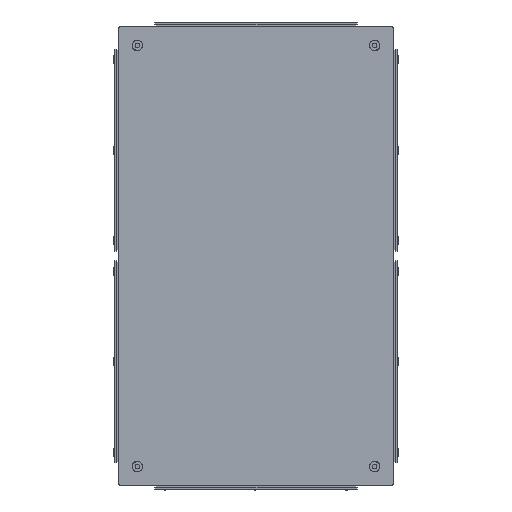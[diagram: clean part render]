
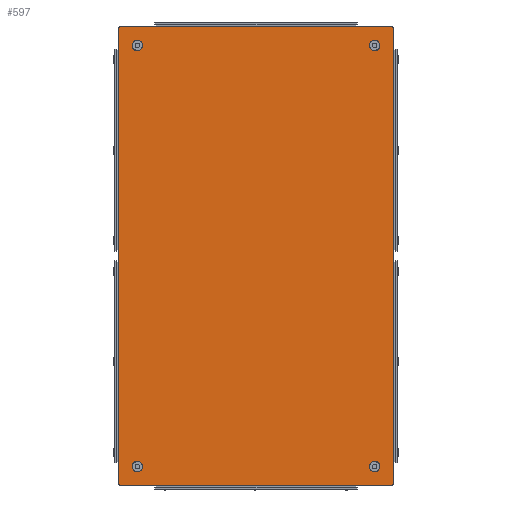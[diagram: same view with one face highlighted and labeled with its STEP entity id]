
A CAD part, front view. The second image highlights one B-rep face of the part: STEP entity #597.
In plain terms, the highlighted planar face has unit normal (0, -1, 0).
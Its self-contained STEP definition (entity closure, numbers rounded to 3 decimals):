
#597 = ADVANCED_FACE('',(#598,#618,#629,#649,#660),#782,.T.);
#598 = FACE_BOUND('',#599,.T.);
#599 = EDGE_LOOP('',(#600,#611));
#600 = ORIENTED_EDGE('',*,*,#601,.F.);
#601 = EDGE_CURVE('',#602,#604,#606,.T.);
#602 = VERTEX_POINT('',#603);
#603 = CARTESIAN_POINT('',(-129.,-1.2,-225.));
#604 = VERTEX_POINT('',#605);
#605 = CARTESIAN_POINT('',(-129.,-1.2,-233.));
#606 = CIRCLE('',#607,4.);
#607 = AXIS2_PLACEMENT_3D('',#608,#609,#610);
#608 = CARTESIAN_POINT('',(-129.,-1.2,-229.));
#609 = DIRECTION('',(0.,-1.,0.));
#610 = DIRECTION('',(0.,0.,1.));
#611 = ORIENTED_EDGE('',*,*,#612,.F.);
#612 = EDGE_CURVE('',#604,#602,#613,.T.);
#613 = CIRCLE('',#614,4.);
#614 = AXIS2_PLACEMENT_3D('',#615,#616,#617);
#615 = CARTESIAN_POINT('',(-129.,-1.2,-229.));
#616 = DIRECTION('',(0.,-1.,0.));
#617 = DIRECTION('',(0.,0.,1.));
#618 = FACE_BOUND('',#619,.T.);
#619 = EDGE_LOOP('',(#620));
#620 = ORIENTED_EDGE('',*,*,#621,.F.);
#621 = EDGE_CURVE('',#622,#622,#624,.T.);
#622 = VERTEX_POINT('',#623);
#623 = CARTESIAN_POINT('',(129.,-1.2,-233.));
#624 = CIRCLE('',#625,4.);
#625 = AXIS2_PLACEMENT_3D('',#626,#627,#628);
#626 = CARTESIAN_POINT('',(129.,-1.2,-229.));
#627 = DIRECTION('',(0.,-1.,0.));
#628 = DIRECTION('',(0.,0.,-1.));
#629 = FACE_BOUND('',#630,.T.);
#630 = EDGE_LOOP('',(#631,#642));
#631 = ORIENTED_EDGE('',*,*,#632,.F.);
#632 = EDGE_CURVE('',#633,#635,#637,.T.);
#633 = VERTEX_POINT('',#634);
#634 = CARTESIAN_POINT('',(129.,-1.2,233.));
#635 = VERTEX_POINT('',#636);
#636 = CARTESIAN_POINT('',(129.,-1.2,225.));
#637 = CIRCLE('',#638,4.);
#638 = AXIS2_PLACEMENT_3D('',#639,#640,#641);
#639 = CARTESIAN_POINT('',(129.,-1.2,229.));
#640 = DIRECTION('',(0.,-1.,0.));
#641 = DIRECTION('',(0.,0.,1.));
#642 = ORIENTED_EDGE('',*,*,#643,.F.);
#643 = EDGE_CURVE('',#635,#633,#644,.T.);
#644 = CIRCLE('',#645,4.);
#645 = AXIS2_PLACEMENT_3D('',#646,#647,#648);
#646 = CARTESIAN_POINT('',(129.,-1.2,229.));
#647 = DIRECTION('',(0.,-1.,0.));
#648 = DIRECTION('',(0.,0.,1.));
#649 = FACE_BOUND('',#650,.T.);
#650 = EDGE_LOOP('',(#651));
#651 = ORIENTED_EDGE('',*,*,#652,.F.);
#652 = EDGE_CURVE('',#653,#653,#655,.T.);
#653 = VERTEX_POINT('',#654);
#654 = CARTESIAN_POINT('',(-129.,-1.2,225.));
#655 = CIRCLE('',#656,4.);
#656 = AXIS2_PLACEMENT_3D('',#657,#658,#659);
#657 = CARTESIAN_POINT('',(-129.,-1.2,229.));
#658 = DIRECTION('',(0.,-1.,0.));
#659 = DIRECTION('',(0.,0.,-1.));
#660 = FACE_BOUND('',#661,.T.);
#661 = EDGE_LOOP('',(#662,#675,#686,#694,#705,#716,#724,#735,#746,#754,
    #765,#776));
#662 = ORIENTED_EDGE('',*,*,#663,.F.);
#663 = EDGE_CURVE('',#664,#666,#668,.T.);
#664 = VERTEX_POINT('',#665);
#665 = CARTESIAN_POINT('',(148.2,-1.2,248.2));
#666 = VERTEX_POINT('',#667);
#667 = CARTESIAN_POINT('',(150.,-1.2,248.574));
#668 = B_SPLINE_CURVE_WITH_KNOTS('',3,(#669,#670,#671,#672,#673,#674),
  .UNSPECIFIED.,.F.,.F.,(4,2,4),(0.004,0.005,
    0.006),.UNSPECIFIED.);
#669 = CARTESIAN_POINT('',(148.2,-1.2,248.2));
#670 = CARTESIAN_POINT('',(148.495,-1.2,248.287));
#671 = CARTESIAN_POINT('',(148.79,-1.2,248.371));
#672 = CARTESIAN_POINT('',(149.39,-1.2,248.498));
#673 = CARTESIAN_POINT('',(149.695,-1.2,248.543));
#674 = CARTESIAN_POINT('',(150.,-1.2,248.574));
#675 = ORIENTED_EDGE('',*,*,#676,.T.);
#676 = EDGE_CURVE('',#664,#677,#679,.T.);
#677 = VERTEX_POINT('',#678);
#678 = CARTESIAN_POINT('',(148.574,-1.2,250.));
#679 = B_SPLINE_CURVE_WITH_KNOTS('',3,(#680,#681,#682,#683,#684,#685),
  .UNSPECIFIED.,.F.,.F.,(4,2,4),(0.004,0.005,
    0.006),.UNSPECIFIED.);
#680 = CARTESIAN_POINT('',(148.2,-1.2,248.2));
#681 = CARTESIAN_POINT('',(148.287,-1.2,248.495));
#682 = CARTESIAN_POINT('',(148.371,-1.2,248.79));
#683 = CARTESIAN_POINT('',(148.498,-1.2,249.39));
#684 = CARTESIAN_POINT('',(148.543,-1.2,249.695));
#685 = CARTESIAN_POINT('',(148.574,-1.2,250.));
#686 = ORIENTED_EDGE('',*,*,#687,.T.);
#687 = EDGE_CURVE('',#677,#688,#690,.T.);
#688 = VERTEX_POINT('',#689);
#689 = CARTESIAN_POINT('',(-148.574,-1.2,250.));
#690 = LINE('',#691,#692);
#691 = CARTESIAN_POINT('',(2650.,-1.2,250.));
#692 = VECTOR('',#693,1.);
#693 = DIRECTION('',(-1.,0.,0.));
#694 = ORIENTED_EDGE('',*,*,#695,.F.);
#695 = EDGE_CURVE('',#696,#688,#698,.T.);
#696 = VERTEX_POINT('',#697);
#697 = CARTESIAN_POINT('',(-148.2,-1.2,248.2));
#698 = B_SPLINE_CURVE_WITH_KNOTS('',3,(#699,#700,#701,#702,#703,#704),
  .UNSPECIFIED.,.F.,.F.,(4,2,4),(0.004,0.005,
    0.006),.UNSPECIFIED.);
#699 = CARTESIAN_POINT('',(-148.2,-1.2,248.2));
#700 = CARTESIAN_POINT('',(-148.287,-1.2,248.495));
#701 = CARTESIAN_POINT('',(-148.371,-1.2,248.79));
#702 = CARTESIAN_POINT('',(-148.498,-1.2,249.39));
#703 = CARTESIAN_POINT('',(-148.543,-1.2,249.695));
#704 = CARTESIAN_POINT('',(-148.574,-1.2,250.));
#705 = ORIENTED_EDGE('',*,*,#706,.T.);
#706 = EDGE_CURVE('',#696,#707,#709,.T.);
#707 = VERTEX_POINT('',#708);
#708 = CARTESIAN_POINT('',(-150.,-1.2,248.574));
#709 = B_SPLINE_CURVE_WITH_KNOTS('',3,(#710,#711,#712,#713,#714,#715),
  .UNSPECIFIED.,.F.,.F.,(4,2,4),(0.004,0.005,
    0.006),.UNSPECIFIED.);
#710 = CARTESIAN_POINT('',(-148.2,-1.2,248.2));
#711 = CARTESIAN_POINT('',(-148.495,-1.2,248.287));
#712 = CARTESIAN_POINT('',(-148.79,-1.2,248.371));
#713 = CARTESIAN_POINT('',(-149.39,-1.2,248.498));
#714 = CARTESIAN_POINT('',(-149.695,-1.2,248.543));
#715 = CARTESIAN_POINT('',(-150.,-1.2,248.574));
#716 = ORIENTED_EDGE('',*,*,#717,.T.);
#717 = EDGE_CURVE('',#707,#718,#720,.T.);
#718 = VERTEX_POINT('',#719);
#719 = CARTESIAN_POINT('',(-150.,-1.2,-248.574));
#720 = LINE('',#721,#722);
#721 = CARTESIAN_POINT('',(-150.,-1.2,2750.));
#722 = VECTOR('',#723,1.);
#723 = DIRECTION('',(0.,0.,-1.));
#724 = ORIENTED_EDGE('',*,*,#725,.F.);
#725 = EDGE_CURVE('',#726,#718,#728,.T.);
#726 = VERTEX_POINT('',#727);
#727 = CARTESIAN_POINT('',(-148.2,-1.2,-248.2));
#728 = B_SPLINE_CURVE_WITH_KNOTS('',3,(#729,#730,#731,#732,#733,#734),
  .UNSPECIFIED.,.F.,.F.,(4,2,4),(0.004,0.005,
    0.006),.UNSPECIFIED.);
#729 = CARTESIAN_POINT('',(-148.2,-1.2,-248.2));
#730 = CARTESIAN_POINT('',(-148.495,-1.2,-248.287));
#731 = CARTESIAN_POINT('',(-148.79,-1.2,-248.371));
#732 = CARTESIAN_POINT('',(-149.39,-1.2,-248.498));
#733 = CARTESIAN_POINT('',(-149.695,-1.2,-248.543));
#734 = CARTESIAN_POINT('',(-150.,-1.2,-248.574));
#735 = ORIENTED_EDGE('',*,*,#736,.T.);
#736 = EDGE_CURVE('',#726,#737,#739,.T.);
#737 = VERTEX_POINT('',#738);
#738 = CARTESIAN_POINT('',(-148.574,-1.2,-250.));
#739 = B_SPLINE_CURVE_WITH_KNOTS('',3,(#740,#741,#742,#743,#744,#745),
  .UNSPECIFIED.,.F.,.F.,(4,2,4),(0.004,0.005,
    0.006),.UNSPECIFIED.);
#740 = CARTESIAN_POINT('',(-148.2,-1.2,-248.2));
#741 = CARTESIAN_POINT('',(-148.287,-1.2,-248.495));
#742 = CARTESIAN_POINT('',(-148.371,-1.2,-248.79));
#743 = CARTESIAN_POINT('',(-148.498,-1.2,-249.39));
#744 = CARTESIAN_POINT('',(-148.543,-1.2,-249.695));
#745 = CARTESIAN_POINT('',(-148.574,-1.2,-250.));
#746 = ORIENTED_EDGE('',*,*,#747,.T.);
#747 = EDGE_CURVE('',#737,#748,#750,.T.);
#748 = VERTEX_POINT('',#749);
#749 = CARTESIAN_POINT('',(148.574,-1.2,-250.));
#750 = LINE('',#751,#752);
#751 = CARTESIAN_POINT('',(-2650.,-1.2,-250.));
#752 = VECTOR('',#753,1.);
#753 = DIRECTION('',(1.,0.,0.));
#754 = ORIENTED_EDGE('',*,*,#755,.F.);
#755 = EDGE_CURVE('',#756,#748,#758,.T.);
#756 = VERTEX_POINT('',#757);
#757 = CARTESIAN_POINT('',(148.2,-1.2,-248.2));
#758 = B_SPLINE_CURVE_WITH_KNOTS('',3,(#759,#760,#761,#762,#763,#764),
  .UNSPECIFIED.,.F.,.F.,(4,2,4),(0.004,0.005,
    0.006),.UNSPECIFIED.);
#759 = CARTESIAN_POINT('',(148.2,-1.2,-248.2));
#760 = CARTESIAN_POINT('',(148.287,-1.2,-248.495));
#761 = CARTESIAN_POINT('',(148.371,-1.2,-248.79));
#762 = CARTESIAN_POINT('',(148.498,-1.2,-249.39));
#763 = CARTESIAN_POINT('',(148.543,-1.2,-249.695));
#764 = CARTESIAN_POINT('',(148.574,-1.2,-250.));
#765 = ORIENTED_EDGE('',*,*,#766,.T.);
#766 = EDGE_CURVE('',#756,#767,#769,.T.);
#767 = VERTEX_POINT('',#768);
#768 = CARTESIAN_POINT('',(150.,-1.2,-248.574));
#769 = B_SPLINE_CURVE_WITH_KNOTS('',3,(#770,#771,#772,#773,#774,#775),
  .UNSPECIFIED.,.F.,.F.,(4,2,4),(0.004,0.005,
    0.006),.UNSPECIFIED.);
#770 = CARTESIAN_POINT('',(148.2,-1.2,-248.2));
#771 = CARTESIAN_POINT('',(148.495,-1.2,-248.287));
#772 = CARTESIAN_POINT('',(148.79,-1.2,-248.371));
#773 = CARTESIAN_POINT('',(149.39,-1.2,-248.498));
#774 = CARTESIAN_POINT('',(149.695,-1.2,-248.543));
#775 = CARTESIAN_POINT('',(150.,-1.2,-248.574));
#776 = ORIENTED_EDGE('',*,*,#777,.T.);
#777 = EDGE_CURVE('',#767,#666,#778,.T.);
#778 = LINE('',#779,#780);
#779 = CARTESIAN_POINT('',(150.,-1.2,-2750.));
#780 = VECTOR('',#781,1.);
#781 = DIRECTION('',(0.,0.,1.));
#782 = PLANE('',#783);
#783 = AXIS2_PLACEMENT_3D('',#784,#785,#786);
#784 = CARTESIAN_POINT('',(0.,-1.2,0.));
#785 = DIRECTION('',(0.,-1.,0.));
#786 = DIRECTION('',(0.,-0.,-1.));
